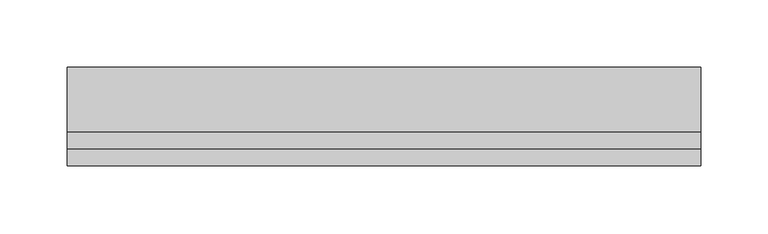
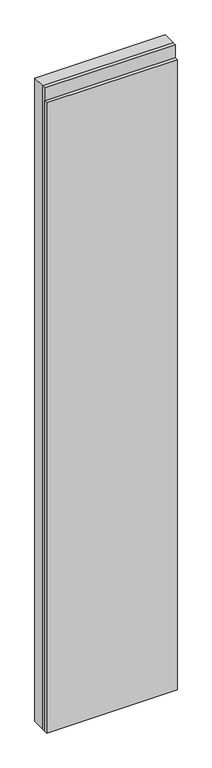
"""IFC4 building model written with IfcOpenShell, lengths in millimetres: proxy geometry, ParedeGeralRemate_Blufab : Parede Geral - Remate cm."""

from ifc_helpers import new_model, si_unit, origin, origin_with_axes, place, context, project, spatial, polyline, outline, extrude, source, transform, mapped, element, save


def generic_models_6947934f(model_context):
    return source(origin(), model_context, "Body", "SweptSolid", [
        extrude(outline(polyline([(470.0, 12.5), (470.0, 0.0), (0.0, 0.0), (0.0, 12.5), (470.0, 12.5)])), origin_with_axes(), (0.0, 0.0, 1.0), 2400.0),
        extrude(outline(polyline([(470.0, 25.0126803), (470.0, 12.5126803), (0.0, 12.5126803), (0.0, 25.0126803), (470.0, 25.0126803)])), origin_with_axes(), (0.0, 0.0, 1.0), 2450.0),
        extrude(outline(polyline([(470.0, 73.0), (470.0, 25.0126803), (0.0, 25.0126803), (0.0, 73.0), (470.0, 73.0)])), origin_with_axes(), (0.0, 0.0, 1.0), 2450.0),
    ])


if __name__ == "__main__":
    model = new_model("IFC4")
    model_context = context("Model", 3, world=origin())
    ifc_project = project(units=[si_unit("LENGTHUNIT", "METRE", prefix="MILLI")], contexts=[model_context])
    site = spatial("IfcSite", under=ifc_project)
    building = spatial("IfcBuilding", under=site)
    placement = place(None, origin())
    generic_models_shape = generic_models_6947934f(model_context)
    element("IfcBuildingElementProxy", 1, Name="ParedeGeralRemate_Blufab : Parede Geral - Remate cm", ObjectType="ParedeGeralRemate_Blufab : Parede Geral - Remate cm", at=placement, inside=building, context=model_context, shape_type="MappedRepresentation", body=[
        mapped(generic_models_shape, transform((0.0, 0.0, 0.0), x_axis=(1.0, 0.0, 0.0), y_axis=(0.0, 1.0, 0.0), z_axis=(0.0, 0.0, 1.0))),
    ])
    save(model, "model.ifc")
